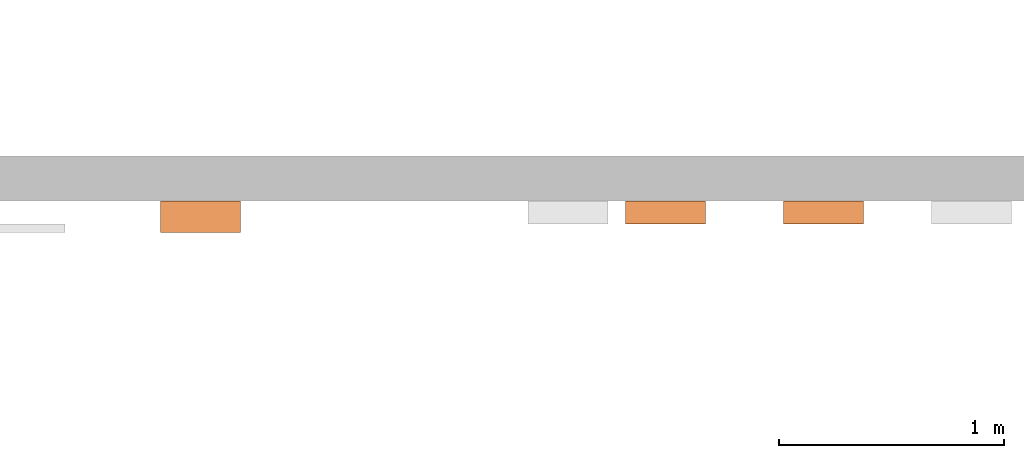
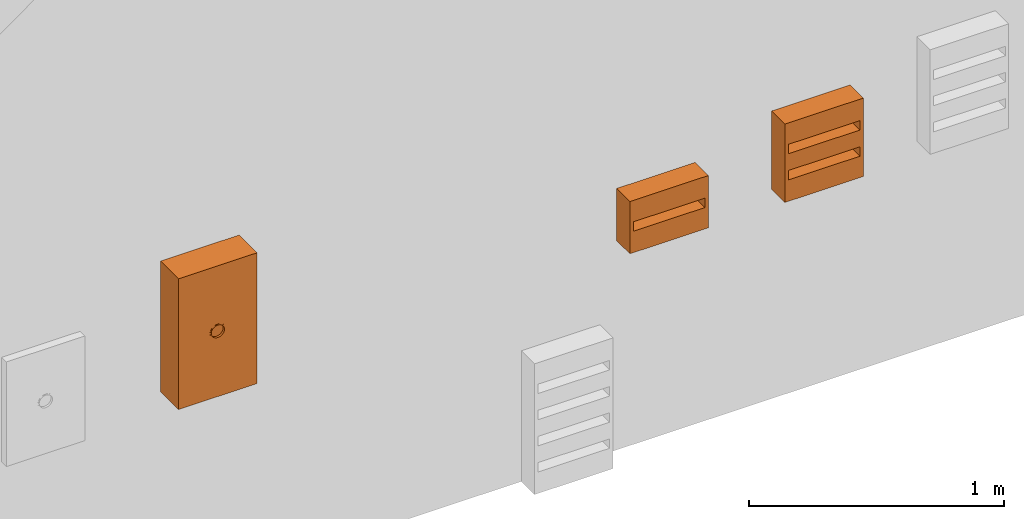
# One storey, part 91 of 197: 3 proxies.
"""IFC2X3 building model written with IfcOpenShell, lengths in metres."""

from ifc_helpers import new_model, entity, si_unit, converted_unit, direction, frame, origin, place, context, subcontext, project, spatial, faceted_brep, source, transform, mapped, material, material_list, type_object, type_shapes, element, save


model = new_model("IFC2X3")

# Units and contexts
model_context = context("Model", 3, precision=1e-05, world=origin(), true_north=direction((6.123031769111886e-17, 1.0)))
body_context = subcontext(model_context, "Body", "Model", "MODEL_VIEW")
ifc_project = project(units=[si_unit("LENGTHUNIT", "METRE"), converted_unit("PLANEANGLEUNIT", "DEGREE", entity("IfcPlaneAngleMeasure", 0.017453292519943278), si_unit("PLANEANGLEUNIT", "RADIAN"), dimensions=[0, 0, 0, 0, 0, 0, 0]), si_unit("AREAUNIT", "SQUARE_METRE")], contexts=[model_context])

# Site, building, storey
site_placement = place(None, origin())
site = spatial("IfcSite", under=ifc_project, at=site_placement, Name="Default", CompositionType="ELEMENT")
building_placement = place(site_placement, origin())
building = spatial("IfcBuilding", under=site, at=building_placement, CompositionType="ELEMENT")
storey_placement = place(building_placement, origin())
storey = spatial("IfcBuildingStorey", under=building, at=storey_placement, Name="Niveau 0", CompositionType="ELEMENT", Elevation=0.0)

# Proxies
ifc_material_1 = material(Name="BETCE-ANNEAU-CHROME")
ifc_material_2 = material(Name="BETCE-TABLEAU-BLANC")
ifc_material_list = material_list([ifc_material_1, ifc_material_2])
building_element_proxy_type_1 = type_object("IfcBuildingElementProxyType", Name="Coffret mural 18 modules avec porte:72M-4R", PredefinedType="NOTDEFINED", material=ifc_material_list)
shared_shape_1 = source(origin(), body_context, "Body", "Brep", [
    faceted_brep([(0.014999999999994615, -0.14149999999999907, 0.2865192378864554), (0.017499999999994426, -0.14149999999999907, 0.28218911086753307), (0.021124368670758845, -0.14149999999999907, 0.284970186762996), (0.011382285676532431, -0.14149999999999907, 0.2850207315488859), (0.02474873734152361, -0.14149999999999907, 0.2877512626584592), (0.018106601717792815, -0.14149999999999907, 0.2889030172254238), (0.007764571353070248, -0.14149999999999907, 0.2835222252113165), (0.013279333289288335, -0.14149999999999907, 0.280440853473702), (0.009058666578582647, -0.14149999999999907, 0.27869259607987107), (0.003882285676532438, -0.14149999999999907, 0.2830111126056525), (0.0, -0.14149999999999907, 0.2824999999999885), (0.004529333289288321, -0.14149999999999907, 0.2780962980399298), (0.0, -0.14149999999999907, 0.27749999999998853), (-0.003882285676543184, -0.14149999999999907, 0.2830111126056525), (-0.007764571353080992, -0.14149999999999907, 0.2835222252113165), (-0.004529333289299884, -0.14149999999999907, 0.27809629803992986), (-0.009058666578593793, -0.14149999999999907, 0.2786925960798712), (-0.011382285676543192, -0.14149999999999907, 0.2850207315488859), (-0.015000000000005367, -0.14149999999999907, 0.28651923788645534), (-0.013279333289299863, -0.14149999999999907, 0.2804408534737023), (-0.017500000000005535, -0.14149999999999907, 0.28218911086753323), (-0.018106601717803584, -0.14149999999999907, 0.2889030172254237), (-0.02121320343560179, -0.14149999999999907, 0.29128679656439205), (-0.021124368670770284, -0.14149999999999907, 0.2849701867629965), (-0.02474873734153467, -0.14149999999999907, 0.28775126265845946), (-0.023596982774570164, -0.14149999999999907, 0.29439339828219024), (-0.025980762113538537, -0.14149999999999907, 0.29749999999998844), (-0.027529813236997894, -0.14149999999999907, 0.2913756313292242), (-0.03031088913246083, -0.14149999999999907, 0.29499999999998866), (-0.027479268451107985, -0.14149999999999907, 0.30111771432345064), (-0.02897777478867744, -0.14149999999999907, 0.3047354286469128), (-0.03205914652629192, -0.14149999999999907, 0.2992206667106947), (-0.03380740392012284, -0.14149999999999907, 0.30344133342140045), (-0.029488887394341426, -0.14149999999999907, 0.30861771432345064), (-0.030000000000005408, -0.14149999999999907, 0.3124999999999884), (-0.0341598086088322, -0.14149999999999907, 0.30611811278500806), (-0.035000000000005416, -0.14149999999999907, 0.31249999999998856), (-0.02961106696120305, -0.14149999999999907, 0.31545423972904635), (-0.02897777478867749, -0.14149999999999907, 0.320264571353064), (-0.03440370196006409, -0.14149999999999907, 0.3170293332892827), (-0.03380740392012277, -0.14149999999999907, 0.32155866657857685), (-0.027479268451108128, -0.14149999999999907, 0.32388228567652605), (-0.02598076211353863, -0.14149999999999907, 0.3274999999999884), (-0.03205914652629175, -0.14149999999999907, 0.3257793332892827), (-0.030310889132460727, -0.14149999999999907, 0.3299999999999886), (-0.02752981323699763, -0.14149999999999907, 0.3336243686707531), (-0.024748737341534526, -0.14149999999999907, 0.3372487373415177), (-0.023596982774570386, -0.14149999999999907, 0.33060660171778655), (-0.021213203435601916, -0.14149999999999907, 0.33371320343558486), (-0.021124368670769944, -0.14149999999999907, 0.3400298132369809), (-0.01750000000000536, -0.14149999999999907, 0.3428108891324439), (-0.01810660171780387, -0.14149999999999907, 0.33609698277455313), (-0.01500000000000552, -0.14149999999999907, 0.3384807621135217), (-0.01327933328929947, -0.14149999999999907, 0.34455914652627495), (-0.009058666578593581, -0.14149999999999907, 0.3463074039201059), (-0.011382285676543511, -0.14149999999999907, 0.339979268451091), (-0.007764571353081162, -0.14149999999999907, 0.34147777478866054), (-0.004529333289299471, -0.14149999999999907, 0.3469037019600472), (0.0, -0.14149999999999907, 0.34749999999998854), (-0.0038822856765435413, -0.14149999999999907, 0.3419888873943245), (0.0, -0.14149999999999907, 0.34249999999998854), (0.004529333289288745, -0.14149999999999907, 0.3469037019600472), (0.009058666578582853, -0.14149999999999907, 0.3463074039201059), (0.003882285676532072, -0.14149999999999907, 0.3419888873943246), (0.007764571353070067, -0.14149999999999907, 0.3414777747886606), (0.01327933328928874, -0.14149999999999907, 0.34455914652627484), (0.017499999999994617, -0.14149999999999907, 0.34281088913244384), (0.011382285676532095, -0.14149999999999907, 0.3399792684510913), (0.014999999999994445, -0.14149999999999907, 0.3384807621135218), (0.021124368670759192, -0.14149999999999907, 0.3400298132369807), (0.024748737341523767, -0.14149999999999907, 0.3372487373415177), (0.018106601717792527, -0.14149999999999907, 0.3360969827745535), (0.021213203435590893, -0.14149999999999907, 0.3337132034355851), (0.02752981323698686, -0.14149999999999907, 0.333624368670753), (0.03031088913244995, -0.14149999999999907, 0.32999999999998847), (0.023596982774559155, -0.14149999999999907, 0.330606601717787), (0.025980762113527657, -0.14149999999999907, 0.32749999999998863), (0.03205914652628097, -0.14149999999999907, 0.3257793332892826), (0.03380740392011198, -0.14149999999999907, 0.32155866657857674), (0.027479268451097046, -0.14149999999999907, 0.3238822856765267), (0.028977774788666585, -0.14149999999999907, 0.32026457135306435), (0.03415980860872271, -0.14149999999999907, 0.3188818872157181), (0.034999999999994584, -0.14149999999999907, 0.3124999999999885), (0.029488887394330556, -0.14149999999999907, 0.31638228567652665), (0.029999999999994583, -0.14149999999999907, 0.3124999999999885), (0.03440370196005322, -0.14149999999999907, 0.30797066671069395), (0.03380740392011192, -0.14149999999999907, 0.30344133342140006), (0.029611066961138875, -0.14149999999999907, 0.30954576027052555), (0.028977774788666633, -0.14149999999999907, 0.3047354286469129), (0.0320591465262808, -0.14149999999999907, 0.299220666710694), (0.030310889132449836, -0.14149999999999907, 0.2949999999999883), (0.02747926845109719, -0.14149999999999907, 0.30111771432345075), (0.02598076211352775, -0.14149999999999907, 0.29749999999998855), (0.02359698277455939, -0.14149999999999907, 0.29439339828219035), (0.021213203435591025, -0.14149999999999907, 0.2912867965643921), (0.027529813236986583, -0.14149999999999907, 0.2913756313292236), (0.014999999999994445, -0.14049999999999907, 0.3384807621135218), (0.017499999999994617, -0.14049999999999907, 0.34281088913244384), (0.021124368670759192, -0.14049999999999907, 0.3400298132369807), (0.011382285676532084, -0.14049999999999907, 0.3399792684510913), (0.024748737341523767, -0.14049999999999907, 0.3372487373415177), (0.018106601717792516, -0.14049999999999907, 0.3360969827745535), (0.007764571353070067, -0.14049999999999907, 0.3414777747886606), (0.013279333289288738, -0.14049999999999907, 0.34455914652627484), (0.009058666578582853, -0.14049999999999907, 0.3463074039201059), (0.003882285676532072, -0.14049999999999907, 0.3419888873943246), (0.0, -0.14049999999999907, 0.34249999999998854), (0.004529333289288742, -0.14049999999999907, 0.3469037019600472), (0.0, -0.14049999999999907, 0.34749999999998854), (-0.0038822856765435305, -0.14049999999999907, 0.3419888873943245), (-0.007764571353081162, -0.14049999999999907, 0.34147777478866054), (-0.004529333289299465, -0.14049999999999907, 0.3469037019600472), (-0.009058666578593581, -0.14049999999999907, 0.3463074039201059), (-0.011382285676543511, -0.14049999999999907, 0.339979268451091), (-0.01500000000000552, -0.14049999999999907, 0.3384807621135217), (-0.01327933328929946, -0.14049999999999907, 0.34455914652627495), (-0.01750000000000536, -0.14049999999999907, 0.3428108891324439), (-0.01810660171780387, -0.14049999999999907, 0.33609698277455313), (-0.021213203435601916, -0.14049999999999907, 0.33371320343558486), (-0.021124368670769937, -0.14049999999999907, 0.34002981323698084), (-0.024748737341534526, -0.14049999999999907, 0.3372487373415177), (-0.023596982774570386, -0.14049999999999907, 0.33060660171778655), (-0.02598076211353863, -0.14049999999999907, 0.3274999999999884), (-0.027529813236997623, -0.14049999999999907, 0.3336243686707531), (-0.030310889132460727, -0.14049999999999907, 0.3299999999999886), (-0.027479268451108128, -0.14049999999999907, 0.32388228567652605), (-0.02897777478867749, -0.14049999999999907, 0.320264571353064), (-0.03205914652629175, -0.14049999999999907, 0.3257793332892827), (-0.03380740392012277, -0.14049999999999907, 0.32155866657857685), (-0.029488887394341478, -0.14049999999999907, 0.3163822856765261), (-0.030000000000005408, -0.14049999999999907, 0.31249999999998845), (-0.03440370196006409, -0.14049999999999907, 0.31702933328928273), (-0.035000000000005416, -0.14049999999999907, 0.3124999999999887), (-0.029611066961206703, -0.14049999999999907, 0.30954576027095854), (-0.02897777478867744, -0.14049999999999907, 0.3047354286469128), (-0.034403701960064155, -0.14049999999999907, 0.3079706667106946), (-0.03380740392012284, -0.14049999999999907, 0.30344133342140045), (-0.027479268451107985, -0.14049999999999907, 0.30111771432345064), (-0.025980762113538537, -0.14049999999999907, 0.29749999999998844), (-0.03205914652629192, -0.14049999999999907, 0.2992206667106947), (-0.03031088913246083, -0.14049999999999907, 0.29499999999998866), (-0.027529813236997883, -0.14049999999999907, 0.2913756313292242), (-0.02474873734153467, -0.14049999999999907, 0.28775126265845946), (-0.02359698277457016, -0.14049999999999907, 0.29439339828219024), (-0.02121320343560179, -0.14049999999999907, 0.29128679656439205), (-0.021124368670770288, -0.14049999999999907, 0.2849701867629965), (-0.017500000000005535, -0.14049999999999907, 0.28218911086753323), (-0.018106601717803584, -0.14049999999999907, 0.2889030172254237), (-0.015000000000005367, -0.14049999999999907, 0.28651923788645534), (-0.013279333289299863, -0.14049999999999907, 0.2804408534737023), (-0.009058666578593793, -0.14049999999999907, 0.2786925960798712), (-0.011382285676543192, -0.14049999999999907, 0.2850207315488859), (-0.007764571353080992, -0.14049999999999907, 0.2835222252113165), (-0.004529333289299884, -0.14049999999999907, 0.27809629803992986), (0.0, -0.14049999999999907, 0.27749999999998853), (-0.0038822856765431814, -0.14049999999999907, 0.2830111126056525), (0.0, -0.14049999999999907, 0.2824999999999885), (0.004529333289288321, -0.14049999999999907, 0.2780962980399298), (0.009058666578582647, -0.14049999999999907, 0.27869259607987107), (0.0038822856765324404, -0.14049999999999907, 0.2830111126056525), (0.007764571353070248, -0.14049999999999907, 0.2835222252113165), (0.013279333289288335, -0.14049999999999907, 0.280440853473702), (0.017499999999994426, -0.14049999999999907, 0.28218911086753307), (0.01138228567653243, -0.14049999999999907, 0.2850207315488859), (0.014999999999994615, -0.14049999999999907, 0.2865192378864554), (0.021124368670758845, -0.14049999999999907, 0.284970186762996), (0.02474873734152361, -0.14049999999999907, 0.2877512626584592), (0.018106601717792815, -0.14049999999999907, 0.2889030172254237), (0.021213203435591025, -0.14049999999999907, 0.2912867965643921), (0.02752981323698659, -0.14049999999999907, 0.2913756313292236), (0.030310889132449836, -0.14049999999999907, 0.2949999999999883), (0.02359698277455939, -0.14049999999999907, 0.2943933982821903), (0.02598076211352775, -0.14049999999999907, 0.29749999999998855), (0.0320591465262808, -0.14049999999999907, 0.299220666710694), (0.03380740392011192, -0.14049999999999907, 0.30344133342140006), (0.0274792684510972, -0.14049999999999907, 0.30111771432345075), (0.028977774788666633, -0.14049999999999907, 0.3047354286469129), (0.034403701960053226, -0.14049999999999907, 0.30797066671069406), (0.034999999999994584, -0.14049999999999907, 0.31249999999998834), (0.029488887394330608, -0.14049999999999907, 0.3086177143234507), (0.029999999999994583, -0.14049999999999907, 0.31249999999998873), (0.03440370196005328, -0.14049999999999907, 0.3170293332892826), (0.03380740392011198, -0.14049999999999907, 0.32155866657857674), (0.029611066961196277, -0.14049999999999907, 0.31545423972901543), (0.028977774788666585, -0.14049999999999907, 0.32026457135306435), (0.03205914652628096, -0.14049999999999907, 0.3257793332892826), (0.03031088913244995, -0.14049999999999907, 0.32999999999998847), (0.027479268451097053, -0.14049999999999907, 0.3238822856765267), (0.025980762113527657, -0.14049999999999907, 0.32749999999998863), (0.02359698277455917, -0.14049999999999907, 0.330606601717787), (0.021213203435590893, -0.14049999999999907, 0.3337132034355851), (0.027529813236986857, -0.14049999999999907, 0.333624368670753)], [[[0, 1, 2]], [[1, 0, 3]], [[0, 2, 4]], [[4, 5, 0]], [[1, 3, 6]], [[6, 7, 1]], [[6, 8, 7]], [[8, 6, 9]], [[8, 9, 10]], [[10, 11, 8]], [[10, 12, 11]], [[12, 10, 13]], [[12, 13, 14]], [[14, 15, 12]], [[14, 16, 15]], [[16, 14, 17]], [[16, 17, 18]], [[18, 19, 16]], [[18, 20, 19]], [[20, 18, 21]], [[20, 21, 22]], [[22, 23, 20]], [[22, 24, 23]], [[24, 22, 25]], [[24, 25, 26]], [[26, 27, 24]], [[26, 28, 27]], [[28, 26, 29]], [[28, 29, 30]], [[30, 31, 28]], [[30, 32, 31]], [[32, 30, 33]], [[32, 33, 34]], [[34, 35, 32]], [[34, 36, 35]], [[36, 34, 37]], [[36, 37, 38]], [[38, 39, 36]], [[38, 40, 39]], [[40, 38, 41]], [[40, 41, 42]], [[42, 43, 40]], [[42, 44, 43]], [[42, 45, 44]], [[42, 46, 45]], [[46, 42, 47]], [[46, 47, 48]], [[48, 49, 46]], [[48, 50, 49]], [[50, 48, 51]], [[50, 51, 52]], [[52, 53, 50]], [[52, 54, 53]], [[54, 52, 55]], [[54, 55, 56]], [[56, 57, 54]], [[56, 58, 57]], [[58, 56, 59]], [[58, 59, 60]], [[60, 61, 58]], [[60, 62, 61]], [[62, 60, 63]], [[62, 63, 64]], [[64, 65, 62]], [[64, 66, 65]], [[66, 64, 67]], [[66, 67, 68]], [[68, 69, 66]], [[68, 70, 69]], [[70, 68, 71]], [[70, 71, 72]], [[72, 73, 70]], [[72, 74, 73]], [[74, 72, 75]], [[74, 75, 76]], [[76, 77, 74]], [[76, 78, 77]], [[78, 76, 79]], [[78, 79, 80]], [[80, 81, 78]], [[80, 82, 81]], [[82, 80, 83]], [[82, 83, 84]], [[84, 85, 82]], [[84, 86, 85]], [[86, 84, 87]], [[86, 87, 88]], [[88, 89, 86]], [[88, 90, 89]], [[90, 88, 91]], [[90, 91, 92]], [[90, 92, 93]], [[90, 93, 94]], [[4, 94, 5]], [[94, 4, 95]], [[94, 95, 90]], [[96, 97, 98]], [[97, 96, 99]], [[96, 98, 100]], [[100, 101, 96]], [[97, 99, 102]], [[102, 103, 97]], [[102, 104, 103]], [[104, 102, 105]], [[104, 105, 106]], [[106, 107, 104]], [[106, 108, 107]], [[108, 106, 109]], [[108, 109, 110]], [[110, 111, 108]], [[110, 112, 111]], [[112, 110, 113]], [[112, 113, 114]], [[114, 115, 112]], [[114, 116, 115]], [[116, 114, 117]], [[116, 117, 118]], [[118, 119, 116]], [[118, 120, 119]], [[120, 118, 121]], [[120, 121, 122]], [[122, 123, 120]], [[122, 124, 123]], [[124, 122, 125]], [[124, 125, 126]], [[126, 127, 124]], [[126, 128, 127]], [[128, 126, 129]], [[128, 129, 130]], [[130, 131, 128]], [[130, 132, 131]], [[132, 130, 133]], [[132, 133, 134]], [[134, 135, 132]], [[134, 136, 135]], [[136, 134, 137]], [[136, 137, 138]], [[138, 139, 136]], [[138, 140, 139]], [[138, 141, 140]], [[138, 142, 141]], [[142, 138, 143]], [[142, 143, 144]], [[144, 145, 142]], [[144, 146, 145]], [[146, 144, 147]], [[146, 147, 148]], [[148, 149, 146]], [[148, 150, 149]], [[150, 148, 151]], [[150, 151, 152]], [[152, 153, 150]], [[152, 154, 153]], [[154, 152, 155]], [[154, 155, 156]], [[156, 157, 154]], [[156, 158, 157]], [[158, 156, 159]], [[158, 159, 160]], [[160, 161, 158]], [[160, 162, 161]], [[162, 160, 163]], [[162, 163, 164]], [[164, 165, 162]], [[164, 166, 165]], [[166, 164, 167]], [[166, 167, 168]], [[168, 169, 166]], [[168, 170, 169]], [[170, 168, 171]], [[170, 171, 172]], [[172, 173, 170]], [[172, 174, 173]], [[174, 172, 175]], [[174, 175, 176]], [[176, 177, 174]], [[176, 178, 177]], [[178, 176, 179]], [[178, 179, 180]], [[180, 181, 178]], [[180, 182, 181]], [[182, 180, 183]], [[182, 183, 184]], [[184, 185, 182]], [[184, 186, 185]], [[186, 184, 187]], [[186, 187, 188]], [[186, 188, 189]], [[186, 189, 190]], [[100, 190, 101]], [[190, 100, 191]], [[190, 191, 186]], [[136, 32, 35, 36, 132, 135]], [[85, 86, 174, 177, 178, 82]], [[136, 139, 140, 28, 31, 32]], [[142, 145, 146, 20, 23, 24]], [[173, 174, 86, 89, 90, 170]], [[140, 141, 142, 24, 27, 28]], [[146, 149, 150, 16, 19, 20]], [[12, 15, 16, 150, 153, 154]], [[154, 157, 158, 8, 11, 12]], [[2, 1, 162, 165, 166, 4]], [[169, 170, 90, 95, 4, 166]], [[158, 161, 162, 1, 7, 8]], [[182, 78, 81, 82, 178, 181]], [[39, 40, 128, 131, 132, 36]], [[182, 185, 186, 74, 77, 78]], [[100, 98, 97, 66, 69, 70]], [[127, 128, 40, 43, 44, 124]], [[186, 191, 100, 70, 73, 74]], [[97, 103, 104, 62, 65, 66]], [[58, 61, 62, 104, 107, 108]], [[108, 111, 112, 54, 57, 58]], [[49, 50, 116, 119, 120, 46]], [[123, 124, 44, 45, 46, 120]], [[112, 115, 116, 50, 53, 54]], [[129, 126, 38, 37, 34, 130]], [[125, 122, 42, 41, 38, 126]], [[51, 48, 118, 117, 114, 52]], [[63, 60, 106, 105, 102, 64]], [[183, 180, 84, 83, 80, 184]], [[48, 47, 42, 122, 121, 118]], [[55, 52, 114, 113, 110, 56]], [[59, 56, 110, 109, 106, 60]], [[99, 96, 68, 67, 64, 102]], [[189, 188, 76, 75, 72, 190]], [[187, 184, 80, 79, 76, 188]], [[101, 190, 72, 71, 68, 96]], [[179, 176, 88, 87, 84, 180]], [[175, 172, 92, 91, 88, 176]], [[5, 94, 168, 167, 164, 0]], [[13, 10, 156, 155, 152, 14]], [[133, 130, 34, 33, 30, 134]], [[94, 93, 92, 172, 171, 168]], [[3, 0, 164, 163, 160, 6]], [[9, 6, 160, 159, 156, 10]], [[151, 148, 18, 17, 14, 152]], [[143, 138, 26, 25, 22, 144]], [[137, 134, 30, 29, 26, 138]], [[147, 144, 22, 21, 18, 148]]]),
    faceted_brep([(0.1775000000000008, -0.14049999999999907, 0.624999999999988), (0.025980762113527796, -0.14049999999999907, 0.3274999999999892), (0.028977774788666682, -0.14049999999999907, 0.3202645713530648), (0.0212132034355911, -0.14049999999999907, 0.3337132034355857), (0.0299999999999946, -0.14049999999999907, 0.3124999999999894), (0.014999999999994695, -0.14049999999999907, 0.3384807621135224), (0.007764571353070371, -0.14049999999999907, 0.3414777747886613), (0.0, -0.14049999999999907, 0.34249999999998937), (-0.17749999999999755, -0.14049999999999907, 0.624999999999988), (0.1775000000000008, -0.14049999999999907, 0.0), (-0.007764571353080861, -0.14049999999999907, 0.3414777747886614), (-0.015000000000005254, -0.14049999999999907, 0.3384807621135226), (-0.021213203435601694, -0.14049999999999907, 0.33371320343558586), (-0.025980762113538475, -0.14049999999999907, 0.3274999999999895), (-0.02897777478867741, -0.14049999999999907, 0.32026457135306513), (-0.030000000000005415, -0.14049999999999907, 0.3124999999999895), (-0.17749999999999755, -0.14049999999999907, 0.0), (-0.02897777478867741, -0.14049999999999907, 0.3047354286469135), (-0.025980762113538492, -0.14049999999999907, 0.2974999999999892), (-0.021213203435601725, -0.14049999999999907, 0.29128679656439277), (-0.015000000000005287, -0.14049999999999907, 0.28651923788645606), (-0.007764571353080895, -0.14049999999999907, 0.28352222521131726), (0.0, -0.14049999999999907, 0.2824999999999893), (0.028977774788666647, -0.14049999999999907, 0.3047354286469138), (0.025980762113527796, -0.14049999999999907, 0.29749999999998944), (0.0212132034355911, -0.14049999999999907, 0.291286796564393), (0.014999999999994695, -0.14049999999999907, 0.28651923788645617), (0.007764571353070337, -0.14049999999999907, 0.2835222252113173), (-0.17749999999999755, -0.10349999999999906, 0.0), (-0.17749999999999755, -0.10349999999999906, 0.624999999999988), (0.1775000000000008, -0.10349999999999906, 0.6249999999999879), (0.1775000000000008, -0.10349999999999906, 0.0), (-0.007764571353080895, -0.13049999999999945, 0.28352222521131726), (0.0, -0.13049999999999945, 0.2824999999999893), (0.007764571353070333, -0.13049999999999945, 0.2835222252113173), (0.014999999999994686, -0.13049999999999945, 0.2865192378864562), (0.021213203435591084, -0.13049999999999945, 0.291286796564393), (0.025980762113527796, -0.13049999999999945, 0.29749999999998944), (0.028977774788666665, -0.13049999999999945, 0.30473542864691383), (0.029999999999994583, -0.13049999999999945, 0.3124999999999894), (0.028977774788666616, -0.13049999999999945, 0.3202645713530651), (0.025980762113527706, -0.13049999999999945, 0.32749999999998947), (0.021213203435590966, -0.13049999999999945, 0.3337132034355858), (0.014999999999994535, -0.13049999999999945, 0.33848076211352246), (0.0077645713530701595, -0.13049999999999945, 0.3414777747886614), (0.0, -0.13049999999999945, 0.34249999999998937), (-0.007764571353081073, -0.13049999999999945, 0.34147777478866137), (-0.015000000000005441, -0.13049999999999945, 0.33848076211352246), (-0.021213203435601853, -0.13049999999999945, 0.33371320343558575), (-0.02598076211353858, -0.13049999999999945, 0.3274999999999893), (-0.02897777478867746, -0.13049999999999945, 0.32026457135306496), (-0.030000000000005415, -0.13049999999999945, 0.3124999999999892), (-0.028977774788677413, -0.13049999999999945, 0.3047354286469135), (-0.025980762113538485, -0.13049999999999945, 0.29749999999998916), (-0.02121320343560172, -0.13049999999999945, 0.29128679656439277), (-0.015000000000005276, -0.13049999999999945, 0.2865192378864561)], [[[0, 1, 2]], [[1, 0, 3]], [[0, 2, 4]], [[5, 3, 0]], [[6, 5, 0]], [[7, 6, 0]], [[0, 8, 7]], [[4, 9, 0]], [[10, 7, 8]], [[11, 10, 8]], [[12, 11, 8]], [[8, 13, 12]], [[13, 8, 14]], [[15, 14, 8]], [[8, 16, 15]], [[17, 15, 16]], [[18, 17, 16]], [[16, 19, 18]], [[19, 16, 20]], [[21, 20, 16]], [[22, 21, 16]], [[22, 16, 9]], [[9, 4, 23]], [[9, 23, 24]], [[24, 25, 9]], [[25, 26, 9]], [[26, 27, 9]], [[9, 27, 22]], [[28, 29, 30, 31]], [[8, 0, 30, 29]], [[16, 8, 29, 28]], [[9, 16, 28, 31]], [[0, 9, 31, 30]], [[32, 33, 34, 35, 36, 37, 38, 39, 40, 41, 42, 43, 44, 45, 46, 47, 48, 49, 50, 51, 52, 53, 54, 55]], [[37, 24, 23, 38]], [[38, 23, 4, 39]], [[34, 27, 26, 35]], [[35, 26, 25, 36]], [[36, 25, 24, 37]], [[27, 34, 33, 22]], [[54, 19, 20, 55]], [[55, 20, 21, 32]], [[51, 15, 17, 52]], [[52, 17, 18, 53]], [[53, 18, 19, 54]], [[22, 33, 32, 21]], [[49, 13, 14, 50]], [[50, 14, 15, 51]], [[46, 10, 11, 47]], [[47, 11, 12, 48]], [[48, 12, 13, 49]], [[10, 46, 45, 7]], [[42, 3, 5, 43]], [[43, 5, 6, 44]], [[39, 4, 2, 40]], [[40, 2, 1, 41]], [[41, 1, 3, 42]], [[7, 45, 44, 6]]]),
    faceted_brep([(0.17750000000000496, -0.1034999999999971, 0.6249999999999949), (-0.17749999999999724, -0.1034999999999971, 0.6249999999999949), (-0.1775, -0.1034999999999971, 0.0), (0.17750000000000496, -0.1034999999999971, 0.0), (-0.1619999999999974, -0.1034999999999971, 0.1475000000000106), (0.1620000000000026, -0.1034999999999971, 0.1475000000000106), (0.1620000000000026, -0.1034999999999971, 0.10250000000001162), (-0.16199999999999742, -0.1034999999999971, 0.10250000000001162), (-0.1619999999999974, -0.1034999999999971, 0.2725000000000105), (0.1620000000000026, -0.1034999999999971, 0.2725000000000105), (0.1620000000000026, -0.1034999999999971, 0.22750000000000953), (-0.16199999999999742, -0.1034999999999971, 0.22750000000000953), (-0.1619999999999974, -0.1034999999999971, 0.5225000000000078), (0.1620000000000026, -0.1034999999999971, 0.5225000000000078), (0.1620000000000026, -0.1034999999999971, 0.47750000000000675), (-0.16199999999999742, -0.1034999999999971, 0.47750000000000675), (-0.1619999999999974, -0.1034999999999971, 0.39750000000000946), (0.1620000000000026, -0.1034999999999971, 0.39750000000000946), (0.1620000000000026, -0.1034999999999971, 0.3525000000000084), (-0.16199999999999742, -0.1034999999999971, 0.3525000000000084), (0.17750000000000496, 0.0, 0.6249999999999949), (0.17750000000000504, 0.0, 0.0), (-0.1775, 0.0, 0.0), (-0.17749999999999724, 0.0, 0.6249999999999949), (0.16200000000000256, -0.01, 0.1475000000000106), (-0.16199999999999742, -0.01, 0.1475000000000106), (-0.16199999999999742, -0.01, 0.10250000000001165), (0.16200000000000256, -0.01, 0.10250000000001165), (0.16200000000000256, -0.01, 0.2725000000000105), (-0.16199999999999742, -0.01, 0.2725000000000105), (-0.16199999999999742, -0.01, 0.22750000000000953), (0.16200000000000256, -0.01, 0.22750000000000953), (0.16200000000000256, -0.01, 0.5225000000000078), (-0.16199999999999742, -0.01, 0.5225000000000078), (-0.16199999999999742, -0.01, 0.47750000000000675), (0.16200000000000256, -0.01, 0.47750000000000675), (0.16200000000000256, -0.01, 0.39750000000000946), (-0.16199999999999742, -0.01, 0.39750000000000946), (-0.16199999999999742, -0.01, 0.3525000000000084), (0.16200000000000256, -0.01, 0.3525000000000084)], [[[0, 1, 2, 3], [4, 5, 6, 7], [8, 9, 10, 11], [12, 13, 14, 15], [16, 17, 18, 19]], [[20, 21, 22, 23]], [[1, 0, 20, 23]], [[2, 1, 23, 22]], [[3, 2, 22, 21]], [[0, 3, 21, 20]], [[24, 25, 26, 27]], [[25, 24, 5, 4]], [[26, 25, 4, 7]], [[27, 26, 7, 6]], [[24, 27, 6, 5]], [[28, 29, 30, 31]], [[29, 28, 9, 8]], [[30, 29, 8, 11]], [[31, 30, 11, 10]], [[28, 31, 10, 9]], [[32, 33, 34, 35]], [[33, 32, 13, 12]], [[34, 33, 12, 15]], [[35, 34, 15, 14]], [[32, 35, 14, 13]], [[36, 37, 38, 39]], [[37, 36, 17, 16]], [[38, 37, 16, 19]], [[39, 38, 19, 18]], [[36, 39, 18, 17]]]),
])
type_shapes(building_element_proxy_type_1, [shared_shape_1])
proxy_1_placement = place(storey_placement, frame((-537.116595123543, -51.152644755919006, 1.0)))
element("IfcBuildingElementProxy", 1, at=proxy_1_placement, inside=storey, type_object=building_element_proxy_type_1, material=ifc_material_list, Name="Coffret mural 18 modules avec porte:72M-4R", ObjectType="Coffret mural 18 modules avec porte:72M-4R", context=body_context, shape_type="MappedRepresentation", body=[
    mapped(shared_shape_1, transform((0.0, 0.0, 0.0), scale=1.0)),
])
building_element_proxy_type_2 = type_object("IfcBuildingElementProxyType", Name="Coffret mural 18 modules:18M-1R", PredefinedType="NOTDEFINED", material=ifc_material_2)
shared_shape_2 = source(origin(), body_context, "Body", "Brep", [
    faceted_brep([(0.17750000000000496, -0.1034999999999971, 0.24999999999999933), (-0.17749999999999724, -0.1034999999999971, 0.24999999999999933), (-0.1775, -0.1034999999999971, 0.0), (0.17750000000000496, -0.1034999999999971, 0.0), (-0.1619999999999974, -0.1034999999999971, 0.1475000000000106), (0.1620000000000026, -0.1034999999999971, 0.1475000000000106), (0.1620000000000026, -0.1034999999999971, 0.10250000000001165), (-0.16199999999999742, -0.1034999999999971, 0.10250000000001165), (0.17750000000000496, 0.0, 0.24999999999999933), (0.17750000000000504, 0.0, 0.0), (-0.1775, 0.0, 0.0), (-0.17749999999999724, 0.0, 0.24999999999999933), (0.16200000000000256, -0.01, 0.1475000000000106), (-0.16199999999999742, -0.01, 0.1475000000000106), (-0.16199999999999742, -0.01, 0.10250000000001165), (0.16200000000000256, -0.01, 0.10250000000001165)], [[[0, 1, 2, 3], [4, 5, 6, 7]], [[8, 9, 10, 11]], [[1, 0, 8, 11]], [[2, 1, 11, 10]], [[3, 2, 10, 9]], [[0, 3, 9, 8]], [[12, 13, 14, 15]], [[13, 12, 5, 4]], [[14, 13, 4, 7]], [[15, 14, 7, 6]], [[12, 15, 6, 5]]]),
])
type_shapes(building_element_proxy_type_2, [shared_shape_2])
proxy_2_placement = place(storey_placement, frame((-535.0543416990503, -51.152644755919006, 1.0)))
element("IfcBuildingElementProxy", 2, at=proxy_2_placement, inside=storey, type_object=building_element_proxy_type_2, material=ifc_material_2, Name="Coffret mural 18 modules:18M-1R", ObjectType="Coffret mural 18 modules:18M-1R", context=body_context, shape_type="MappedRepresentation", body=[
    mapped(shared_shape_2, transform((0.0, 0.0, 0.0), scale=1.0)),
])
building_element_proxy_type_3 = type_object("IfcBuildingElementProxyType", Name="Coffret mural 18 modules:36M-2R", PredefinedType="NOTDEFINED", material=ifc_material_2)
shared_shape_3 = source(origin(), body_context, "Body", "Brep", [
    faceted_brep([(0.17750000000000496, -0.1034999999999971, 0.3749999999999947), (-0.17749999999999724, -0.1034999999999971, 0.3749999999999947), (-0.1775, -0.1034999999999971, 0.0), (0.17750000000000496, -0.1034999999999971, 0.0), (-0.1619999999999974, -0.1034999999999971, 0.1475000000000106), (0.1620000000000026, -0.1034999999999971, 0.1475000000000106), (0.1620000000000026, -0.1034999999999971, 0.10250000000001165), (-0.16199999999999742, -0.1034999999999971, 0.10250000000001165), (-0.1619999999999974, -0.1034999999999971, 0.2725000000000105), (0.1620000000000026, -0.1034999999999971, 0.2725000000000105), (0.1620000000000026, -0.1034999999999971, 0.22750000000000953), (-0.16199999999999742, -0.1034999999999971, 0.22750000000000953), (0.17750000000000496, 0.0, 0.3749999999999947), (0.17750000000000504, 0.0, 0.0), (-0.1775, 0.0, 0.0), (-0.17749999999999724, 0.0, 0.3749999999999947), (0.16200000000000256, -0.01, 0.1475000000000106), (-0.16199999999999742, -0.01, 0.1475000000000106), (-0.16199999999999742, -0.01, 0.10250000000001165), (0.16200000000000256, -0.01, 0.10250000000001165), (0.16200000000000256, -0.01, 0.2725000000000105), (-0.16199999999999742, -0.01, 0.2725000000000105), (-0.16199999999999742, -0.01, 0.22750000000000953), (0.16200000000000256, -0.01, 0.22750000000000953)], [[[0, 1, 2, 3], [4, 5, 6, 7], [8, 9, 10, 11]], [[12, 13, 14, 15]], [[1, 0, 12, 15]], [[2, 1, 15, 14]], [[3, 2, 14, 13]], [[0, 3, 13, 12]], [[16, 17, 18, 19]], [[17, 16, 5, 4]], [[18, 17, 4, 7]], [[19, 18, 7, 6]], [[16, 19, 6, 5]], [[20, 21, 22, 23]], [[21, 20, 9, 8]], [[22, 21, 8, 11]], [[23, 22, 11, 10]], [[20, 23, 10, 9]]]),
])
type_shapes(building_element_proxy_type_3, [shared_shape_3])
proxy_3_placement = place(storey_placement, frame((-534.3533416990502, -51.152644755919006, 1.0)))
element("IfcBuildingElementProxy", 3, at=proxy_3_placement, inside=storey, type_object=building_element_proxy_type_3, material=ifc_material_2, Name="Coffret mural 18 modules:36M-2R", ObjectType="Coffret mural 18 modules:36M-2R", context=body_context, shape_type="MappedRepresentation", body=[
    mapped(shared_shape_3, transform((0.0, 0.0, 0.0), scale=1.0)),
])

save(model, "model.ifc")
